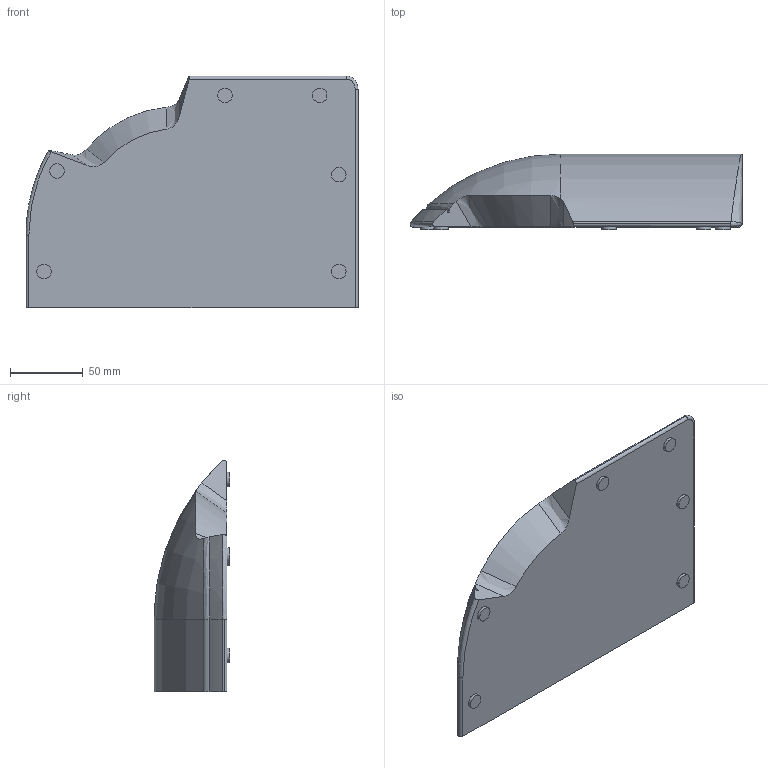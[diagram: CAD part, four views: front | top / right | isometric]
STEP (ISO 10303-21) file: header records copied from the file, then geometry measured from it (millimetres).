
FILE_DESCRIPTION(/* description */ ('Unknown'),/* implementation_level */ '2;1');
FILE_NAME(/* name */ '3D_Footsie-Slim_EndcapR',/* time_stamp */ '2024-01-11T11:04:11+01:00',/* author */ ('Unknown'),/* organization */ ('Unknown'),/* preprocessor_version */ 'ST-DEVELOPER v18.104',/* originating_system */ 'Solid Edge',/* authorisation */ 'Unknown');
FILE_SCHEMA (('AUTOMOTIVE_DESIGN {1 0 10303 214 3 1 1}'));
Length unit declared in the file: millimetre
Products named in the file (1): 3D_Footsie-Slim_EndcapR
Bounding box: 228.09 x 52 x 159.24 mm (x, y, z)
Volume: 1188845.2 mm3; surface area: 85777.9 mm2
Topology: 1 solids, 1 shells, 43 faces, 99 edges, 63 vertices
Faces by surface type: cylinder 16, bspline 13, plane 12, torus 2
Full cylindrical faces by diameter (mm): 10 x6
Entity records: 1792 total; most frequent: CARTESIAN_POINT 927, ORIENTED_EDGE 184, DIRECTION 136, EDGE_CURVE 92, VERTEX_POINT 63, AXIS2_PLACEMENT_3D 57, EDGE_LOOP 55, FACE_BOUND 55
